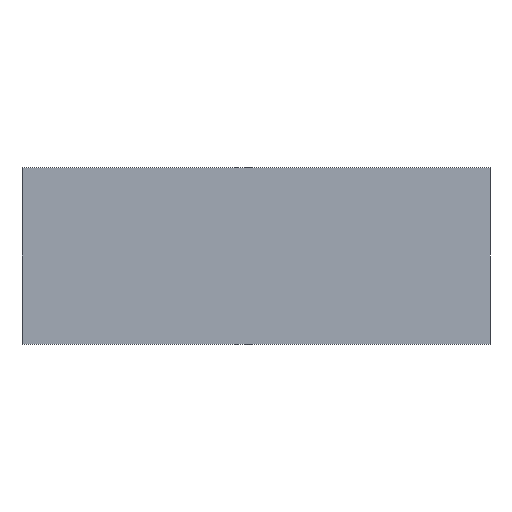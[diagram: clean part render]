
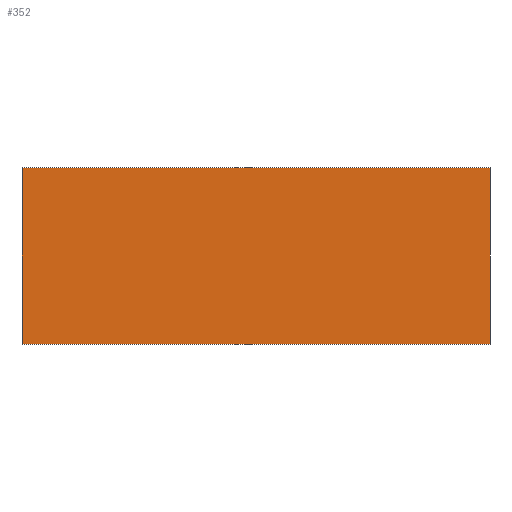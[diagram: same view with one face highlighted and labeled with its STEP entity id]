
A CAD part, front view. The second image highlights one B-rep face of the part: STEP entity #352.
In plain terms, the highlighted planar face has unit normal (0, -1, 0).
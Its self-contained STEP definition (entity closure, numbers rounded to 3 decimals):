
#2=DIRECTION('',(0.,0.,-1.));
#3=VECTOR('',#2,170.);
#4=CARTESIAN_POINT('',(-225.,0.,85.));
#5=LINE('',#4,#3);
#18=DIRECTION('',(1.,0.,0.));
#19=VECTOR('',#18,450.);
#20=CARTESIAN_POINT('',(-225.,0.,85.));
#21=LINE('',#20,#19);
#94=DIRECTION('',(1.,0.,0.));
#95=VECTOR('',#94,450.);
#96=CARTESIAN_POINT('',(-225.,0.,-85.));
#97=LINE('',#96,#95);
#98=DIRECTION('',(0.,0.,-1.));
#99=VECTOR('',#98,170.);
#100=CARTESIAN_POINT('',(225.,0.,85.));
#101=LINE('',#100,#99);
#242=CARTESIAN_POINT('',(-225.,0.,85.));
#243=CARTESIAN_POINT('',(-225.,0.,-85.));
#244=VERTEX_POINT('',#242);
#245=VERTEX_POINT('',#243);
#250=CARTESIAN_POINT('',(225.,0.,85.));
#251=CARTESIAN_POINT('',(225.,0.,-85.));
#252=VERTEX_POINT('',#250);
#253=VERTEX_POINT('',#251);
#338=CARTESIAN_POINT('',(-225.,0.,85.));
#339=DIRECTION('',(0.,-1.,0.));
#340=DIRECTION('',(0.,0.,-1.));
#341=AXIS2_PLACEMENT_3D('',#338,#339,#340);
#342=PLANE('',#341);
#343=ORIENTED_EDGE('',*,*,#327,.F.);
#345=ORIENTED_EDGE('',*,*,#344,.T.);
#347=ORIENTED_EDGE('',*,*,#346,.T.);
#349=ORIENTED_EDGE('',*,*,#348,.F.);
#350=EDGE_LOOP('',(#343,#345,#347,#349));
#351=FACE_OUTER_BOUND('',#350,.F.);
#352=ADVANCED_FACE('',(#351),#342,.T.);
#327=EDGE_CURVE('',#244,#245,#5,.T.);
#344=EDGE_CURVE('',#244,#252,#21,.T.);
#346=EDGE_CURVE('',#252,#253,#101,.T.);
#348=EDGE_CURVE('',#245,#253,#97,.T.);
